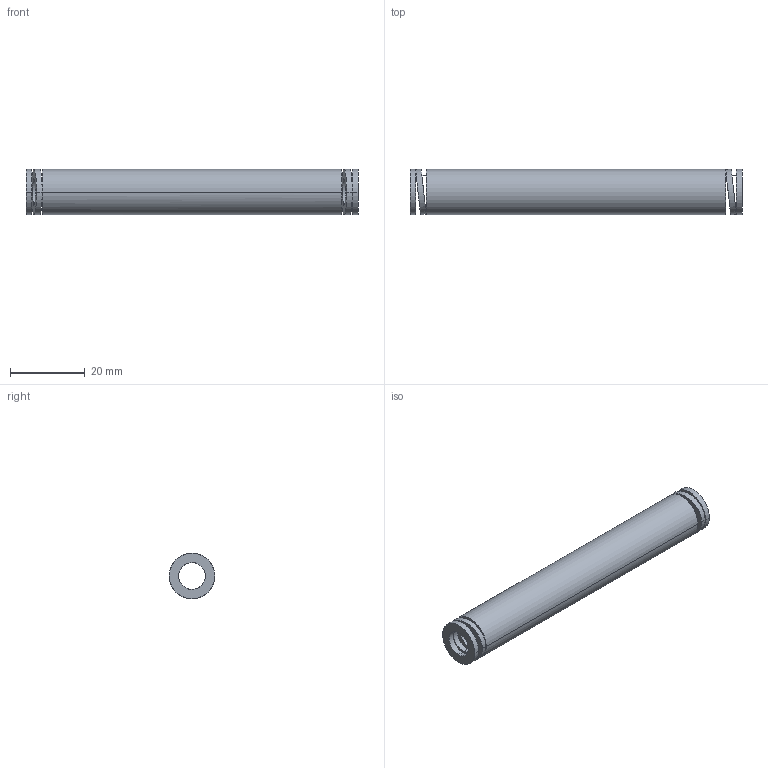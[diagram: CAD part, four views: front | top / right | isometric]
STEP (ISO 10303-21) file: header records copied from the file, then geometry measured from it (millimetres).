
FILE_DESCRIPTION(('CATIA V5 STEP Exchange'),'2;1');
FILE_NAME('C:\Users\Utente\Desktop\IO LAVORO\3D X SITO CF\X SITO\3D files 392B\392-B13-089.stp','2021-08-12T12:43:58+00:00',('none'),('none'),'CATIA Version 5 Release 20 GA (IN-10)','CATIA V5 STEP AP203','none');
FILE_SCHEMA(('CONFIG_CONTROL_DESIGN'));
Length unit declared in the file: millimetre
Products named in the file (1): 392-B13-089
Bounding box: 89 x 12.29 x 12.2 mm (x, y, z)
Volume: 6571.5 mm3; surface area: 6020.4 mm2
Topology: 1 solids, 1 shells, 38 faces, 92 edges, 64 vertices
Faces by surface type: cylinder 28, plane 10
Entity records: 1563 total; most frequent: CARTESIAN_POINT 670, ORIENTED_EDGE 184, DIRECTION 131, EDGE_CURVE 92, AXIS2_PLACEMENT_3D 66, VERTEX_POINT 64, EDGE_LOOP 56, ADVANCED_FACE 38
